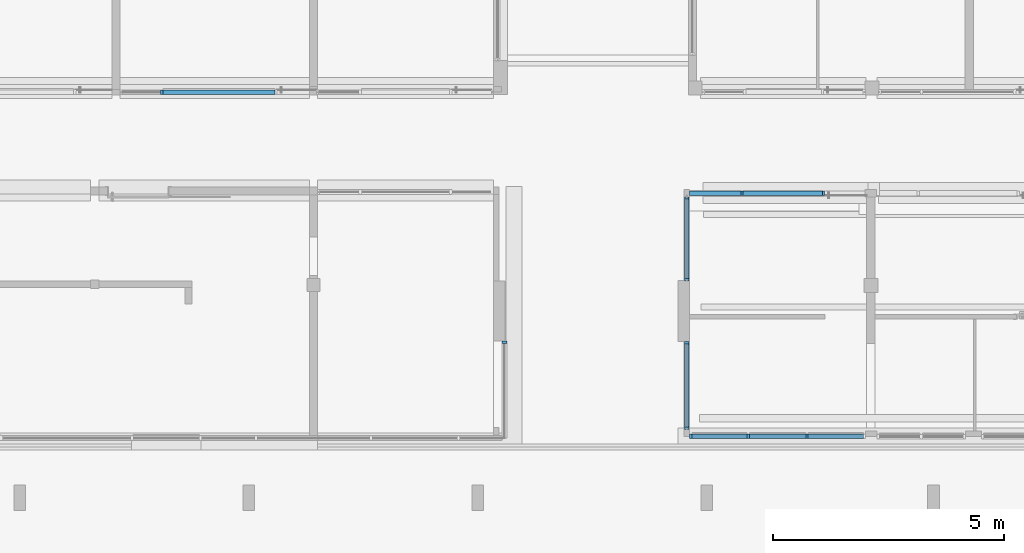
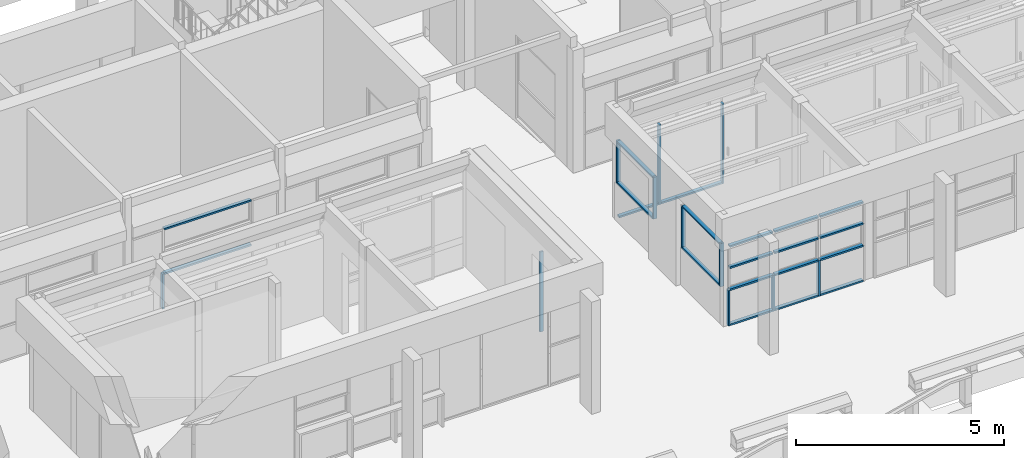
# One storey, part 8 of 117: 31 members, 6 elements without a shape of their own.
"""IFC4 building model written with IfcOpenShell, lengths in metres."""

from ifc_helpers import new_model, entity, si_unit, converted_unit, derived_unit, direction, frame, origin, place, context, subcontext, project, spatial, indexed_curve, outline, extrude, source, transform, mapped, material, type_object, type_shapes, element, aggregate, save


model = new_model("IFC4")

# Units and contexts
model_context = context("Model", 3, precision=1e-05, world=origin(), true_north=direction((6.123031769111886e-17, 1.0)))
body_context = subcontext(model_context, "Body", "Model", "MODEL_VIEW")
ifc_project = project(units=[si_unit("LENGTHUNIT", "METRE"), si_unit("AREAUNIT", "SQUARE_METRE"), si_unit("VOLUMEUNIT", "CUBIC_METRE"), converted_unit("PLANEANGLEUNIT", "DEGREE", entity("IfcRatioMeasure", 0.017453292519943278), si_unit("PLANEANGLEUNIT", "RADIAN"), dimensions=[0, 0, 0, 0, 0, 0, 0]), si_unit("MASSUNIT", "GRAM", prefix="KILO"), derived_unit("MASSDENSITYUNIT", [(si_unit("MASSUNIT", "GRAM", prefix="KILO"), 1), (si_unit("LENGTHUNIT", "METRE"), -3)]), derived_unit("MOMENTOFINERTIAUNIT", [(si_unit("LENGTHUNIT", "METRE"), 4)]), si_unit("TIMEUNIT", "SECOND"), si_unit("FREQUENCYUNIT", "HERTZ"), si_unit("THERMODYNAMICTEMPERATUREUNIT", "DEGREE_CELSIUS"), derived_unit("THERMALTRANSMITTANCEUNIT", [(si_unit("MASSUNIT", "GRAM", prefix="KILO"), 1), (si_unit("THERMODYNAMICTEMPERATUREUNIT", "KELVIN"), -1), (si_unit("TIMEUNIT", "SECOND"), -3)]), derived_unit("VOLUMETRICFLOWRATEUNIT", [(si_unit("LENGTHUNIT", "METRE"), 3), (si_unit("TIMEUNIT", "SECOND"), -1)]), derived_unit("MASSFLOWRATEUNIT", [(si_unit("MASSUNIT", "GRAM", prefix="KILO"), 1), (si_unit("TIMEUNIT", "SECOND"), -1)]), derived_unit("ROTATIONALFREQUENCYUNIT", [(si_unit("TIMEUNIT", "SECOND"), -1)]), si_unit("ELECTRICCURRENTUNIT", "AMPERE"), si_unit("ELECTRICVOLTAGEUNIT", "VOLT"), si_unit("POWERUNIT", "WATT"), si_unit("FORCEUNIT", "NEWTON", prefix="KILO"), si_unit("ILLUMINANCEUNIT", "LUX"), si_unit("LUMINOUSFLUXUNIT", "LUMEN"), si_unit("LUMINOUSINTENSITYUNIT", "CANDELA"), derived_unit("USERDEFINED", [(si_unit("MASSUNIT", "GRAM", prefix="KILO"), -1), (si_unit("LENGTHUNIT", "METRE"), -2), (si_unit("TIMEUNIT", "SECOND"), 3), (si_unit("LUMINOUSFLUXUNIT", "LUMEN"), 1)]), derived_unit("SOUNDPOWERUNIT", [(si_unit("MASSUNIT", "GRAM", prefix="KILO"), 1), (si_unit("LENGTHUNIT", "METRE"), 2), (si_unit("TIMEUNIT", "SECOND"), -3)]), derived_unit("SOUNDPRESSUREUNIT", [(si_unit("MASSUNIT", "GRAM", prefix="KILO"), 1), (si_unit("LENGTHUNIT", "METRE"), -1), (si_unit("TIMEUNIT", "SECOND"), -2)]), derived_unit("LINEARVELOCITYUNIT", [(si_unit("LENGTHUNIT", "METRE"), 1), (si_unit("TIMEUNIT", "SECOND"), -1)]), si_unit("PRESSUREUNIT", "PASCAL"), derived_unit("USERDEFINED", [(si_unit("LENGTHUNIT", "METRE"), -2), (si_unit("MASSUNIT", "GRAM", prefix="KILO"), 1), (si_unit("TIMEUNIT", "SECOND"), -2)]), derived_unit("LINEARFORCEUNIT", [(si_unit("MASSUNIT", "GRAM", prefix="KILO"), 1), (si_unit("LENGTHUNIT", "METRE"), 1), (si_unit("TIMEUNIT", "SECOND"), -2), (si_unit("LENGTHUNIT", "METRE"), -1)]), derived_unit("PLANARFORCEUNIT", [(si_unit("MASSUNIT", "GRAM", prefix="KILO"), 1), (si_unit("LENGTHUNIT", "METRE"), 1), (si_unit("TIMEUNIT", "SECOND"), -2), (si_unit("LENGTHUNIT", "METRE"), -2)])], contexts=[model_context])

# Site, building, storey
site_placement = place(None, origin())
site = spatial("IfcSite", under=ifc_project, at=site_placement, Name="Superficie", CompositionType="ELEMENT")
building_placement = place(site_placement, origin())
building = spatial("IfcBuilding", under=site, at=building_placement, CompositionType="ELEMENT")
storey_placement = place(building_placement, origin())
storey = spatial("IfcBuildingStorey", under=building, at=storey_placement, Name="Nivel 0", CompositionType="ELEMENT", Elevation=0.0)

# Curtain wall, members
curtain_wall_type = type_object("IfcCurtainWallType", Name="Muro cortina:Muro cortina - simple", PredefinedType="NOTDEFINED")
curtain_wall_1_placement = place(storey_placement, origin())
curtain_wall_1 = element("IfcCurtainWall", 1, at=curtain_wall_1_placement, inside=storey, type_object=curtain_wall_type, Name="Muro cortina:Muro cortina - simple", ObjectType="Muro cortina:Muro cortina - simple", PredefinedType="NOTDEFINED")
ifc_material = material(Name="<Unnamed>")
member_type_1 = type_object("IfcMemberType", Name="Montante rectangular:Montante rectangular - 5 x 10 cm", PredefinedType="MULLION", material=ifc_material)
shared_shape_1 = source(origin(), body_context, "Body", "SweptSolid", [
    extrude(outline(indexed_curve([(-0.05, -0.025), (0.05, -0.025), (0.05, 0.025), (-0.05, 0.025), (-0.05, -0.025)], self_intersect=False)), frame((0.0, 0.0, -1.2499999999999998), z_axis=(0.0, 0.0, 1.0), x_axis=(0.0, -1.0, 0.0)), (0.0, 0.0, 1.0), 1.2499999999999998),
])
type_shapes(member_type_1, [shared_shape_1])
member_1_placement = place(curtain_wall_1_placement, frame((0.7267990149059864, 0.29436135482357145, 1.0750000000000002), z_axis=(0.0, 0.0, -1.0), x_axis=(0.0, -1.0, 0.0)))
member_1 = element("IfcMember", 2, at=member_1_placement, type_object=member_type_1, material=ifc_material, Name="Montante rectangular:Montante rectangular - 5 x 10 cm", ObjectType="Montante rectangular:Montante rectangular - 5 x 10 cm", PredefinedType="MULLION", context=body_context, shape_type="MappedRepresentation", body=[
    mapped(shared_shape_1, transform((0.0, 0.0, 0.0), scale=1.0)),
])
member_type_2 = type_object("IfcMemberType", Name="Montante rectangular:Montante rectangular - 5 x 10 cm", PredefinedType="MULLION", material=ifc_material)
shared_shape_2 = source(origin(), body_context, "Body", "SweptSolid", [
    extrude(outline(indexed_curve([(-0.05, -0.025), (0.05, -0.025), (0.05, 0.025), (-0.05, 0.025), (-0.05, -0.025)], self_intersect=False)), frame((0.0, 0.0, -1.7985320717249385), z_axis=(0.0, 0.0, 1.0), x_axis=(0.0, -1.0, 0.0)), (0.0, 0.0, 1.0), 1.7985320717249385),
])
type_shapes(member_type_2, [shared_shape_2])
member_2_placement = place(curtain_wall_1_placement, frame((0.7267990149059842, -1.5291707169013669, 1.1), z_axis=(0.0, -1.0, 0.0), x_axis=(0.0, 0.0, 1.0)))
member_2 = element("IfcMember", 3, at=member_2_placement, type_object=member_type_2, material=ifc_material, Name="Montante rectangular:Montante rectangular - 5 x 10 cm", ObjectType="Montante rectangular:Montante rectangular - 5 x 10 cm", PredefinedType="MULLION", context=body_context, shape_type="MappedRepresentation", body=[
    mapped(shared_shape_2, transform((0.0, 0.0, 0.0), scale=1.0)),
])
member_3_placement = place(curtain_wall_1_placement, frame((0.7267990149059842, -1.5291707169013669, 2.3249999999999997), z_axis=(0.0, -1.0, 0.0), x_axis=(0.0, 0.0, 1.0)))
member_3 = element("IfcMember", 4, at=member_3_placement, type_object=member_type_2, material=ifc_material, Name="Montante rectangular:Montante rectangular - 5 x 10 cm", ObjectType="Montante rectangular:Montante rectangular - 5 x 10 cm", PredefinedType="MULLION", context=body_context, shape_type="MappedRepresentation", body=[
    mapped(shared_shape_2, transform((0.0, 0.0, 0.0), scale=1.0)),
])
member_type_3 = type_object("IfcMemberType", Name="Montante rectangular:Montante rectangular - 5 x 10 cm", PredefinedType="MULLION", material=ifc_material)
shared_shape_3 = source(origin(), body_context, "Body", "SweptSolid", [
    extrude(outline(indexed_curve([(-0.05, -0.025), (0.05, -0.025), (0.05, 0.025), (-0.05, 0.025), (-0.05, -0.025)], self_intersect=False)), frame((0.0, 0.0, -1.275), z_axis=(0.0, 0.0, 1.0), x_axis=(0.0, -1.0, 0.0)), (0.0, 0.0, 1.0), 1.275),
])
type_shapes(member_type_3, [shared_shape_3])
member_4_placement = place(curtain_wall_1_placement, frame((0.7267990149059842, -1.554170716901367, 1.0750000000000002), z_axis=(0.0, 0.0, -1.0), x_axis=(0.0, -1.0, 0.0)))
member_4 = element("IfcMember", 5, at=member_4_placement, type_object=member_type_3, material=ifc_material, Name="Montante rectangular:Montante rectangular - 5 x 10 cm", ObjectType="Montante rectangular:Montante rectangular - 5 x 10 cm", PredefinedType="MULLION", context=body_context, shape_type="MappedRepresentation", body=[
    mapped(shared_shape_3, transform((0.0, 0.0, 0.0), scale=1.0)),
])
aggregate(curtain_wall_1, [member_2, member_3, member_1, member_4])

curtain_wall_2_placement = place(storey_placement, origin())
curtain_wall_2 = element("IfcCurtainWall", 6, at=curtain_wall_2_placement, inside=storey, type_object=curtain_wall_type, Name="Muro cortina:Muro cortina - simple", ObjectType="Muro cortina:Muro cortina - simple", PredefinedType="NOTDEFINED")
member_type_4 = type_object("IfcMemberType", Name="Montante rectangular:Montante rectangular - 5 x 10 cm", PredefinedType="MULLION", material=ifc_material)
shared_shape_4 = source(origin(), body_context, "Body", "SweptSolid", [
    extrude(outline(indexed_curve([(-0.05, -0.025), (0.05, -0.025), (0.05, 0.025), (-0.05, 0.025), (-0.05, -0.025)], self_intersect=False)), frame((0.0, 0.0, -1.2299999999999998), z_axis=(0.0, 0.0, 1.0), x_axis=(0.0, -1.0, 0.0)), (0.0, 0.0, 1.0), 1.2299999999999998),
])
type_shapes(member_type_4, [shared_shape_4])
member_5_placement = place(curtain_wall_2_placement, frame((0.7267990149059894, 1.659361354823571, 1.12), z_axis=(0.0, 0.0, -1.0), x_axis=(0.0, -1.0, 0.0)))
member_5 = element("IfcMember", 7, at=member_5_placement, type_object=member_type_4, material=ifc_material, Name="Montante rectangular:Montante rectangular - 5 x 10 cm", ObjectType="Montante rectangular:Montante rectangular - 5 x 10 cm", PredefinedType="MULLION", context=body_context, shape_type="MappedRepresentation", body=[
    mapped(shared_shape_4, transform((0.0, 0.0, 0.0), scale=1.0)),
])
member_type_5 = type_object("IfcMemberType", Name="Montante rectangular:Montante rectangular - 5 x 10 cm", PredefinedType="MULLION", material=ifc_material)
shared_shape_5 = source(origin(), body_context, "Body", "SweptSolid", [
    extrude(outline(indexed_curve([(-0.05, -0.025), (0.05, -0.025), (0.05, 0.025), (-0.05, 0.025), (-0.05, -0.025)], self_intersect=False)), frame((0.0, 0.0, -1.7163524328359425), z_axis=(0.0, 0.0, 1.0), x_axis=(0.0, -1.0, 0.0)), (0.0, 0.0, 1.0), 1.7163524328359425),
])
type_shapes(member_type_5, [shared_shape_5])
member_6_placement = place(curtain_wall_2_placement, frame((0.7267990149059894, 1.6843613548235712, 1.12), z_axis=(0.0, -1.0, 0.0), x_axis=(0.0, 0.0, 1.0)))
member_6 = element("IfcMember", 8, at=member_6_placement, type_object=member_type_5, material=ifc_material, Name="Montante rectangular:Montante rectangular - 5 x 10 cm", ObjectType="Montante rectangular:Montante rectangular - 5 x 10 cm", PredefinedType="MULLION", context=body_context, shape_type="MappedRepresentation", body=[
    mapped(shared_shape_5, transform((0.0, 0.0, 0.0), scale=1.0)),
])
member_7_placement = place(curtain_wall_2_placement, frame((0.7267990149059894, 1.6843613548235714, 2.3249999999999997), z_axis=(0.0, -1.0, 0.0), x_axis=(0.0, 0.0, 1.0)))
member_7 = element("IfcMember", 9, at=member_7_placement, type_object=member_type_5, material=ifc_material, Name="Montante rectangular:Montante rectangular - 5 x 10 cm", ObjectType="Montante rectangular:Montante rectangular - 5 x 10 cm", PredefinedType="MULLION", context=body_context, shape_type="MappedRepresentation", body=[
    mapped(shared_shape_5, transform((0.0, 0.0, 0.0), scale=1.0)),
])
member_type_6 = type_object("IfcMemberType", Name="Montante rectangular:Montante rectangular - 5 x 10 cm", PredefinedType="MULLION", material=ifc_material)
shared_shape_6 = source(origin(), body_context, "Body", "SweptSolid", [
    extrude(outline(indexed_curve([(-0.05, -0.025), (0.05, -0.025), (0.05, 0.025), (-0.05, 0.025), (-0.05, -0.025)], self_intersect=False)), frame((0.0, 0.0, -1.2549999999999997), z_axis=(0.0, 0.0, 1.0), x_axis=(0.0, -1.0, 0.0)), (0.0, 0.0, 1.0), 1.2549999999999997),
])
type_shapes(member_type_6, [shared_shape_6])
member_8_placement = place(curtain_wall_2_placement, frame((0.7267990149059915, 3.425713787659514, 1.0950000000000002), z_axis=(0.0, 0.0, -1.0), x_axis=(0.0, -1.0, 0.0)))
member_8 = element("IfcMember", 10, at=member_8_placement, type_object=member_type_6, material=ifc_material, Name="Montante rectangular:Montante rectangular - 5 x 10 cm", ObjectType="Montante rectangular:Montante rectangular - 5 x 10 cm", PredefinedType="MULLION", context=body_context, shape_type="MappedRepresentation", body=[
    mapped(shared_shape_6, transform((0.0, 0.0, 0.0), scale=1.0)),
])
aggregate(curtain_wall_2, [member_5, member_6, member_8, member_7])

curtain_wall_3_placement = place(storey_placement, origin())
curtain_wall_3 = element("IfcCurtainWall", 11, at=curtain_wall_3_placement, inside=storey, type_object=curtain_wall_type, Name="Muro cortina:Muro cortina - simple", ObjectType="Muro cortina:Muro cortina - simple", PredefinedType="NOTDEFINED")
member_type_7 = type_object("IfcMemberType", Name="Montante rectangular:Montante rectangular - 5 x 10 cm", PredefinedType="MULLION", material=ifc_material)
shared_shape_7 = source(origin(), body_context, "Body", "SweptSolid", [
    extrude(outline(indexed_curve([(-0.05, -0.025), (0.05, -0.025), (0.05, 0.025), (-0.05, 0.025), (-0.05, -0.025)], self_intersect=False)), frame((0.0, 0.0, -2.3499999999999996), z_axis=(0.0, 0.0, 1.0), x_axis=(0.0, -1.0, 0.0)), (0.0, 0.0, 1.0), 2.3499999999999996),
])
type_shapes(member_type_7, [shared_shape_7])
member_9_placement = place(curtain_wall_3_placement, frame((3.681799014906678, 3.5257137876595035, 0.0), z_axis=(0.0, 0.0, -1.0), x_axis=(-1.0, 0.0, 0.0)))
member_9 = element("IfcMember", 12, at=member_9_placement, type_object=member_type_7, material=ifc_material, Name="Montante rectangular:Montante rectangular - 5 x 10 cm", ObjectType="Montante rectangular:Montante rectangular - 5 x 10 cm", PredefinedType="MULLION", context=body_context, shape_type="MappedRepresentation", body=[
    mapped(shared_shape_7, transform((0.0, 0.0, 0.0), scale=1.0)),
])
member_10_placement = place(curtain_wall_3_placement, frame((1.921799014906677, 3.5257137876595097, 0.0), z_axis=(0.0, 0.0, -1.0), x_axis=(-1.0, 0.0, 0.0)))
member_10 = element("IfcMember", 13, at=member_10_placement, type_object=member_type_7, material=ifc_material, Name="Montante rectangular:Montante rectangular - 5 x 10 cm", ObjectType="Montante rectangular:Montante rectangular - 5 x 10 cm", PredefinedType="MULLION", context=body_context, shape_type="MappedRepresentation", body=[
    mapped(shared_shape_7, transform((0.0, 0.0, 0.0), scale=1.0)),
])
member_type_8 = type_object("IfcMemberType", Name="Montante rectangular:Montante rectangular - 5 x 10 cm", PredefinedType="MULLION", material=ifc_material)
shared_shape_8 = source(origin(), body_context, "Body", "SweptSolid", [
    extrude(outline(indexed_curve([(-0.05, -0.025), (0.05, -0.025), (0.05, 0.025), (-0.05, 0.025), (-0.05, -0.025)], self_intersect=False)), frame((-0.025, 0.0, -1.1049999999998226), z_axis=(0.0, 0.0, 1.0), x_axis=(0.0, -1.0, 0.0)), (0.0, 0.0, 1.0), 1.1049999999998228),
])
type_shapes(member_type_8, [shared_shape_8])
member_11_placement = place(curtain_wall_3_placement, frame((1.896799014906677, 3.5257137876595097, 0.0), z_axis=(1.0, 0.0, 0.0), x_axis=(0.0, 0.0, -1.0)))
member_11 = element("IfcMember", 14, at=member_11_placement, type_object=member_type_8, material=ifc_material, Name="Montante rectangular:Montante rectangular - 5 x 10 cm", ObjectType="Montante rectangular:Montante rectangular - 5 x 10 cm", PredefinedType="MULLION", context=body_context, shape_type="MappedRepresentation", body=[
    mapped(shared_shape_8, transform((0.0, 0.0, 0.0), scale=1.0)),
])
member_type_9 = type_object("IfcMemberType", Name="Montante rectangular:Montante rectangular - 5 x 10 cm", PredefinedType="MULLION", material=ifc_material)
shared_shape_9 = source(origin(), body_context, "Body", "SweptSolid", [
    extrude(outline(indexed_curve([(-0.05, -0.025), (0.05, -0.025), (0.05, 0.025), (-0.05, 0.025), (-0.05, -0.025)], self_intersect=False)), frame((-0.025, 0.0, -1.7100000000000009), z_axis=(0.0, 0.0, 1.0), x_axis=(0.0, -1.0, 0.0)), (0.0, 0.0, 1.0), 1.710000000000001),
])
type_shapes(member_type_9, [shared_shape_9])
member_12_placement = place(curtain_wall_3_placement, frame((3.656799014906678, 3.5257137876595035, 0.0), z_axis=(1.0, 0.0, 0.0), x_axis=(0.0, 0.0, -1.0)))
member_12 = element("IfcMember", 15, at=member_12_placement, type_object=member_type_9, material=ifc_material, Name="Montante rectangular:Montante rectangular - 5 x 10 cm", ObjectType="Montante rectangular:Montante rectangular - 5 x 10 cm", PredefinedType="MULLION", context=body_context, shape_type="MappedRepresentation", body=[
    mapped(shared_shape_9, transform((0.0, 0.0, 0.0), scale=1.0)),
])
aggregate(curtain_wall_3, [member_9, member_10, member_11, member_12])

# Curtain wall, member
curtain_wall_4_placement = place(storey_placement, origin())
curtain_wall_4 = element("IfcCurtainWall", 16, at=curtain_wall_4_placement, inside=storey, type_object=curtain_wall_type, Name="Muro cortina:Muro cortina - simple", ObjectType="Muro cortina:Muro cortina - simple", PredefinedType="NOTDEFINED")
member_type_10 = type_object("IfcMemberType", Name="Montante rectangular:Montante rectangular - 5 x 10 cm", PredefinedType="MULLION", material=ifc_material)
shared_shape_10 = source(origin(), body_context, "Body", "SweptSolid", [
    extrude(outline(indexed_curve([(-0.05, -0.025), (0.05, -0.025), (0.05, 0.025), (-0.05, 0.025), (-0.05, -0.025)], self_intersect=False)), frame((-0.025, 0.0, -2.35), z_axis=(0.0, 0.0, 1.0), x_axis=(0.0, -1.0, 0.0)), (0.0, 0.0, 1.0), 2.35),
])
type_shapes(member_type_10, [shared_shape_10])
member_13_placement = place(curtain_wall_4_placement, frame((-3.2132009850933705, 0.3327285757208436, 0.0), z_axis=(0.0, 0.0, -1.0), x_axis=(0.0, 1.0, 0.0)))
member_13 = element("IfcMember", 17, at=member_13_placement, type_object=member_type_10, material=ifc_material, Name="Montante rectangular:Montante rectangular - 5 x 10 cm", ObjectType="Montante rectangular:Montante rectangular - 5 x 10 cm", PredefinedType="MULLION", context=body_context, shape_type="MappedRepresentation", body=[
    mapped(shared_shape_10, transform((0.0, 0.0, 0.0), scale=1.0)),
])
aggregate(curtain_wall_4, [member_13])

# Curtain wall, members
curtain_wall_5_placement = place(storey_placement, origin())
curtain_wall_5 = element("IfcCurtainWall", 18, at=curtain_wall_5_placement, inside=storey, type_object=curtain_wall_type, Name="Muro cortina:Muro cortina - simple", ObjectType="Muro cortina:Muro cortina - simple", PredefinedType="NOTDEFINED")
member_type_11 = type_object("IfcMemberType", Name="Montante rectangular:Montante rectangular - 5 x 10 cm", PredefinedType="MULLION", material=ifc_material)
shared_shape_11 = source(origin(), body_context, "Body", "SweptSolid", [
    extrude(outline(indexed_curve([(-0.05, -0.025), (0.05, -0.025), (0.05, 0.025), (-0.05, 0.025), (-0.05, -0.025)], self_intersect=False)), frame((0.0, 0.0, -1.0250000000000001), z_axis=(0.0, 0.0, 1.0), x_axis=(0.0, -1.0, 0.0)), (0.0, 0.0, 1.0), 1.0250000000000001),
])
type_shapes(member_type_11, [shared_shape_11])
member_14_placement = place(curtain_wall_5_placement, frame((-10.623200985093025, 5.715829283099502, -0.005000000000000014), z_axis=(0.0, 0.0, -1.0), x_axis=(1.0, 0.0, 0.0)))
member_14 = element("IfcMember", 19, at=member_14_placement, type_object=member_type_11, material=ifc_material, Name="Montante rectangular:Montante rectangular - 5 x 10 cm", ObjectType="Montante rectangular:Montante rectangular - 5 x 10 cm", PredefinedType="MULLION", context=body_context, shape_type="MappedRepresentation", body=[
    mapped(shared_shape_11, transform((0.0, 0.0, 0.0), scale=1.0)),
])
member_type_12 = type_object("IfcMemberType", Name="Montante rectangular:Montante rectangular - 5 x 10 cm", PredefinedType="MULLION", material=ifc_material)
shared_shape_12 = source(origin(), body_context, "Body", "SweptSolid", [
    extrude(outline(indexed_curve([(-0.05, -0.025), (0.05, -0.025), (0.05, 0.025), (-0.05, 0.025), (-0.05, -0.025)], self_intersect=False)), frame((-0.025, 0.0, -2.4195344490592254), z_axis=(0.0, 0.0, 1.0), x_axis=(0.0, -1.0, 0.0)), (0.0, 0.0, 1.0), 2.419534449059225),
])
type_shapes(member_type_12, [shared_shape_12])
member_15_placement = place(curtain_wall_5_placement, frame((-8.1786665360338, 5.715829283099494, 2.35), z_axis=(1.0, 0.0, 0.0), x_axis=(0.0, 0.0, 1.0)))
member_15 = element("IfcMember", 20, at=member_15_placement, type_object=member_type_12, material=ifc_material, Name="Montante rectangular:Montante rectangular - 5 x 10 cm", ObjectType="Montante rectangular:Montante rectangular - 5 x 10 cm", PredefinedType="MULLION", context=body_context, shape_type="MappedRepresentation", body=[
    mapped(shared_shape_12, transform((0.0, 0.0, 0.0), scale=1.0)),
])
member_type_13 = type_object("IfcMemberType", Name="Montante rectangular:Montante rectangular - 5 x 10 cm", PredefinedType="MULLION", material=ifc_material)
shared_shape_13 = source(origin(), body_context, "Body", "SweptSolid", [
    extrude(outline(indexed_curve([(-0.05, -0.025), (0.05, -0.025), (0.05, 0.025), (-0.05, 0.025), (-0.05, -0.025)], self_intersect=False)), frame((0.0, 0.0, -2.4195344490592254), z_axis=(0.0, 0.0, 1.0), x_axis=(0.0, -1.0, 0.0)), (0.0, 0.0, 1.0), 2.419534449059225),
])
type_shapes(member_type_13, [shared_shape_13])
member_16_placement = place(curtain_wall_5_placement, frame((-8.1786665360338, 5.715829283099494, 1.0199999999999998), z_axis=(1.0, 0.0, 0.0), x_axis=(0.0, 0.0, 1.0)))
member_16 = element("IfcMember", 21, at=member_16_placement, type_object=member_type_13, material=ifc_material, Name="Montante rectangular:Montante rectangular - 5 x 10 cm", ObjectType="Montante rectangular:Montante rectangular - 5 x 10 cm", PredefinedType="MULLION", context=body_context, shape_type="MappedRepresentation", body=[
    mapped(shared_shape_13, transform((0.0, 0.0, 0.0), scale=1.0)),
])
aggregate(curtain_wall_5, [member_15, member_16, member_14])

curtain_wall_6_placement = place(storey_placement, origin())
curtain_wall_6 = element("IfcCurtainWall", 22, at=curtain_wall_6_placement, inside=storey, type_object=curtain_wall_type, Name="Muro cortina:Muro cortina - simple", ObjectType="Muro cortina:Muro cortina - simple", PredefinedType="NOTDEFINED")
member_type_14 = type_object("IfcMemberType", Name="Montante rectangular:Montante rectangular - 5 x 10 cm", PredefinedType="MULLION", material=ifc_material)
shared_shape_14 = source(origin(), body_context, "Body", "SweptSolid", [
    extrude(outline(indexed_curve([(-0.05, -0.025), (0.05, -0.025), (0.05, 0.025), (-0.05, 0.025), (-0.05, -0.025)], self_intersect=False)), frame((-0.025, 0.0, -1.0499999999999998), z_axis=(0.0, 0.0, 1.0), x_axis=(0.0, -1.0, 0.0)), (0.0, 0.0, 1.0), 1.0499999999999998),
])
type_shapes(member_type_14, [shared_shape_14])
member_17_placement = place(curtain_wall_6_placement, frame((0.7917990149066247, -1.724170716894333, 0.0), z_axis=(0.0, 0.0, -1.0), x_axis=(-1.0, 0.0, 0.0)))
member_17 = element("IfcMember", 23, at=member_17_placement, type_object=member_type_14, material=ifc_material, Name="Montante rectangular:Montante rectangular - 5 x 10 cm", ObjectType="Montante rectangular:Montante rectangular - 5 x 10 cm", PredefinedType="MULLION", context=body_context, shape_type="MappedRepresentation", body=[
    mapped(shared_shape_14, transform((0.0, 0.0, 0.0), scale=1.0)),
])
member_type_15 = type_object("IfcMemberType", Name="Montante rectangular:Montante rectangular - 5 x 10 cm", PredefinedType="MULLION", material=ifc_material)
shared_shape_15 = source(origin(), body_context, "Body", "SweptSolid", [
    extrude(outline(indexed_curve([(-0.05, -0.025), (0.05, -0.025), (0.05, 0.025), (-0.05, 0.025), (-0.05, -0.025)], self_intersect=False)), frame((-0.025, 0.0, -1.1933333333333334), z_axis=(0.0, 0.0, 1.0), x_axis=(0.0, -1.0, 0.0)), (0.0, 0.0, 1.0), 1.1933333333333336),
])
type_shapes(member_type_15, [shared_shape_15])
member_18_placement = place(curtain_wall_6_placement, frame((4.5467990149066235, -1.724170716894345, 0.0), z_axis=(1.0, 0.0, 0.0), x_axis=(0.0, 0.0, -1.0)))
member_18 = element("IfcMember", 24, at=member_18_placement, type_object=member_type_15, material=ifc_material, Name="Montante rectangular:Montante rectangular - 5 x 10 cm", ObjectType="Montante rectangular:Montante rectangular - 5 x 10 cm", PredefinedType="MULLION", context=body_context, shape_type="MappedRepresentation", body=[
    mapped(shared_shape_15, transform((0.0, 0.0, 0.0), scale=1.0)),
])
member_19_placement = place(curtain_wall_6_placement, frame((2.035132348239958, -1.724170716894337, 0.0), z_axis=(1.0, 0.0, 0.0), x_axis=(0.0, 0.0, -1.0)))
member_19 = element("IfcMember", 25, at=member_19_placement, type_object=member_type_15, material=ifc_material, Name="Montante rectangular:Montante rectangular - 5 x 10 cm", ObjectType="Montante rectangular:Montante rectangular - 5 x 10 cm", PredefinedType="MULLION", context=body_context, shape_type="MappedRepresentation", body=[
    mapped(shared_shape_15, transform((0.0, 0.0, 0.0), scale=1.0)),
])
member_type_16 = type_object("IfcMemberType", Name="Montante rectangular:Montante rectangular - 5 x 10 cm", PredefinedType="MULLION", material=ifc_material)
shared_shape_16 = source(origin(), body_context, "Body", "SweptSolid", [
    extrude(outline(indexed_curve([(-0.05, -0.025), (0.05, -0.025), (0.05, 0.025), (-0.05, 0.025), (-0.05, -0.025)], self_intersect=False)), frame((-0.025, 0.0, -1.193333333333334), z_axis=(0.0, 0.0, 1.0), x_axis=(0.0, -1.0, 0.0)), (0.0, 0.0, 1.0), 1.193333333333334),
])
type_shapes(member_type_16, [shared_shape_16])
member_20_placement = place(curtain_wall_6_placement, frame((0.8417990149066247, -1.7241707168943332, 2.35), z_axis=(-1.0, 0.0, 0.0), x_axis=(0.0, 0.0, 1.0)))
member_20 = element("IfcMember", 26, at=member_20_placement, type_object=member_type_16, material=ifc_material, Name="Montante rectangular:Montante rectangular - 5 x 10 cm", ObjectType="Montante rectangular:Montante rectangular - 5 x 10 cm", PredefinedType="MULLION", context=body_context, shape_type="MappedRepresentation", body=[
    mapped(shared_shape_16, transform((0.0, 0.0, 0.0), scale=1.0)),
])
member_21_placement = place(curtain_wall_6_placement, frame((3.353465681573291, -1.724170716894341, 2.35), z_axis=(-1.0, 0.0, 0.0), x_axis=(0.0, 0.0, 1.0)))
member_21 = element("IfcMember", 27, at=member_21_placement, type_object=member_type_16, material=ifc_material, Name="Montante rectangular:Montante rectangular - 5 x 10 cm", ObjectType="Montante rectangular:Montante rectangular - 5 x 10 cm", PredefinedType="MULLION", context=body_context, shape_type="MappedRepresentation", body=[
    mapped(shared_shape_16, transform((0.0, 0.0, 0.0), scale=1.0)),
])
member_type_17 = type_object("IfcMemberType", Name="Montante rectangular:Montante rectangular - 5 x 10 cm", PredefinedType="MULLION", material=ifc_material)
shared_shape_17 = source(origin(), body_context, "Body", "SweptSolid", [
    extrude(outline(indexed_curve([(-0.05, -0.025), (0.05, -0.025), (0.05, 0.025), (-0.05, 0.025), (-0.05, -0.025)], self_intersect=False)), frame((-0.025, 0.0, -1.2183333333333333), z_axis=(0.0, 0.0, 1.0), x_axis=(0.0, -1.0, 0.0)), (0.0, 0.0, 1.0), 1.218333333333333),
])
type_shapes(member_type_17, [shared_shape_17])
member_22_placement = place(curtain_wall_6_placement, frame((3.3034656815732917, -1.724170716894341, 0.0), z_axis=(1.0, 0.0, 0.0), x_axis=(0.0, 0.0, -1.0)))
member_22 = element("IfcMember", 28, at=member_22_placement, type_object=member_type_17, material=ifc_material, Name="Montante rectangular:Montante rectangular - 5 x 10 cm", ObjectType="Montante rectangular:Montante rectangular - 5 x 10 cm", PredefinedType="MULLION", context=body_context, shape_type="MappedRepresentation", body=[
    mapped(shared_shape_17, transform((0.0, 0.0, 0.0), scale=1.0)),
])
member_type_18 = type_object("IfcMemberType", Name="Montante rectangular:Montante rectangular - 5 x 10 cm", PredefinedType="MULLION", material=ifc_material)
shared_shape_18 = source(origin(), body_context, "Body", "SweptSolid", [
    extrude(outline(indexed_curve([(-0.05, -0.025), (0.05, -0.025), (0.05, 0.025), (-0.05, 0.025), (-0.05, -0.025)], self_intersect=False)), frame((-0.025, 0.0, -1.2183333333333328), z_axis=(0.0, 0.0, 1.0), x_axis=(0.0, -1.0, 0.0)), (0.0, 0.0, 1.0), 1.2183333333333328),
])
type_shapes(member_type_18, [shared_shape_18])
member_23_placement = place(curtain_wall_6_placement, frame((2.085132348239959, -1.724170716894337, 2.35), z_axis=(-1.0, 0.0, 0.0), x_axis=(0.0, 0.0, 1.0)))
member_23 = element("IfcMember", 29, at=member_23_placement, type_object=member_type_18, material=ifc_material, Name="Montante rectangular:Montante rectangular - 5 x 10 cm", ObjectType="Montante rectangular:Montante rectangular - 5 x 10 cm", PredefinedType="MULLION", context=body_context, shape_type="MappedRepresentation", body=[
    mapped(shared_shape_18, transform((0.0, 0.0, 0.0), scale=1.0)),
])
member_type_19 = type_object("IfcMemberType", Name="Montante rectangular:Montante rectangular - 5 x 10 cm", PredefinedType="MULLION", material=ifc_material)
shared_shape_19 = source(origin(), body_context, "Body", "SweptSolid", [
    extrude(outline(indexed_curve([(-0.05, -0.025), (0.05, -0.025), (0.05, 0.025), (-0.05, 0.025), (-0.05, -0.025)], self_intersect=False)), frame((0.0, 0.0, -1.0499999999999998), z_axis=(0.0, 0.0, 1.0), x_axis=(0.0, -1.0, 0.0)), (0.0, 0.0, 1.0), 1.0499999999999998),
])
type_shapes(member_type_19, [shared_shape_19])
member_24_placement = place(curtain_wall_6_placement, frame((2.0601323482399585, -1.724170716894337, 0.0), z_axis=(0.0, 0.0, -1.0), x_axis=(-1.0, 0.0, 0.0)))
member_24 = element("IfcMember", 30, at=member_24_placement, type_object=member_type_19, material=ifc_material, Name="Montante rectangular:Montante rectangular - 5 x 10 cm", ObjectType="Montante rectangular:Montante rectangular - 5 x 10 cm", PredefinedType="MULLION", context=body_context, shape_type="MappedRepresentation", body=[
    mapped(shared_shape_19, transform((0.0, 0.0, 0.0), scale=1.0)),
])
member_25_placement = place(curtain_wall_6_placement, frame((3.3284656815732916, -1.724170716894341, 0.0), z_axis=(0.0, 0.0, -1.0), x_axis=(-1.0, 0.0, 0.0)))
member_25 = element("IfcMember", 31, at=member_25_placement, type_object=member_type_19, material=ifc_material, Name="Montante rectangular:Montante rectangular - 5 x 10 cm", ObjectType="Montante rectangular:Montante rectangular - 5 x 10 cm", PredefinedType="MULLION", context=body_context, shape_type="MappedRepresentation", body=[
    mapped(shared_shape_19, transform((0.0, 0.0, 0.0), scale=1.0)),
])
member_type_20 = type_object("IfcMemberType", Name="Montante rectangular:Montante rectangular - 5 x 10 cm", PredefinedType="MULLION", material=ifc_material)
shared_shape_20 = source(origin(), body_context, "Body", "SweptSolid", [
    extrude(outline(indexed_curve([(-0.05, -0.025), (0.05, -0.025), (0.05, 0.025), (-0.05, 0.025), (-0.05, -0.025)], self_intersect=False)), frame((0.0, 0.0, -1.193333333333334), z_axis=(0.0, 0.0, 1.0), x_axis=(0.0, -1.0, 0.0)), (0.0, 0.0, 1.0), 1.193333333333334),
])
type_shapes(member_type_20, [shared_shape_20])
member_26_placement = place(curtain_wall_6_placement, frame((0.8417990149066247, -1.7241707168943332, 1.0499999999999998), z_axis=(-1.0, 0.0, 0.0), x_axis=(0.0, 0.0, 1.0)))
member_26 = element("IfcMember", 32, at=member_26_placement, type_object=member_type_20, material=ifc_material, Name="Montante rectangular:Montante rectangular - 5 x 10 cm", ObjectType="Montante rectangular:Montante rectangular - 5 x 10 cm", PredefinedType="MULLION", context=body_context, shape_type="MappedRepresentation", body=[
    mapped(shared_shape_20, transform((0.0, 0.0, 0.0), scale=1.0)),
])
member_27_placement = place(curtain_wall_6_placement, frame((3.353465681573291, -1.724170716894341, 1.0499999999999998), z_axis=(-1.0, 0.0, 0.0), x_axis=(0.0, 0.0, 1.0)))
member_27 = element("IfcMember", 33, at=member_27_placement, type_object=member_type_20, material=ifc_material, Name="Montante rectangular:Montante rectangular - 5 x 10 cm", ObjectType="Montante rectangular:Montante rectangular - 5 x 10 cm", PredefinedType="MULLION", context=body_context, shape_type="MappedRepresentation", body=[
    mapped(shared_shape_20, transform((0.0, 0.0, 0.0), scale=1.0)),
])
member_28_placement = place(curtain_wall_6_placement, frame((0.8417990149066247, -1.7241707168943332, 1.7), z_axis=(-1.0, 0.0, 0.0), x_axis=(0.0, 0.0, 1.0)))
member_28 = element("IfcMember", 34, at=member_28_placement, type_object=member_type_20, material=ifc_material, Name="Montante rectangular:Montante rectangular - 5 x 10 cm", ObjectType="Montante rectangular:Montante rectangular - 5 x 10 cm", PredefinedType="MULLION", context=body_context, shape_type="MappedRepresentation", body=[
    mapped(shared_shape_20, transform((0.0, 0.0, 0.0), scale=1.0)),
])
member_29_placement = place(curtain_wall_6_placement, frame((3.353465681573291, -1.724170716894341, 1.7), z_axis=(-1.0, 0.0, 0.0), x_axis=(0.0, 0.0, 1.0)))
member_29 = element("IfcMember", 35, at=member_29_placement, type_object=member_type_20, material=ifc_material, Name="Montante rectangular:Montante rectangular - 5 x 10 cm", ObjectType="Montante rectangular:Montante rectangular - 5 x 10 cm", PredefinedType="MULLION", context=body_context, shape_type="MappedRepresentation", body=[
    mapped(shared_shape_20, transform((0.0, 0.0, 0.0), scale=1.0)),
])
member_type_21 = type_object("IfcMemberType", Name="Montante rectangular:Montante rectangular - 5 x 10 cm", PredefinedType="MULLION", material=ifc_material)
shared_shape_21 = source(origin(), body_context, "Body", "SweptSolid", [
    extrude(outline(indexed_curve([(-0.05, -0.025), (0.05, -0.025), (0.05, 0.025), (-0.05, 0.025), (-0.05, -0.025)], self_intersect=False)), frame((0.0, 0.0, -1.2183333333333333), z_axis=(0.0, 0.0, 1.0), x_axis=(0.0, -1.0, 0.0)), (0.0, 0.0, 1.0), 1.218333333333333),
])
type_shapes(member_type_21, [shared_shape_21])
member_30_placement = place(curtain_wall_6_placement, frame((2.0851323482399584, -1.724170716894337, 1.0499999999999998), z_axis=(-1.0, 0.0, 0.0), x_axis=(0.0, 0.0, 1.0)))
member_30 = element("IfcMember", 36, at=member_30_placement, type_object=member_type_21, material=ifc_material, Name="Montante rectangular:Montante rectangular - 5 x 10 cm", ObjectType="Montante rectangular:Montante rectangular - 5 x 10 cm", PredefinedType="MULLION", context=body_context, shape_type="MappedRepresentation", body=[
    mapped(shared_shape_21, transform((0.0, 0.0, 0.0), scale=1.0)),
])
member_31_placement = place(curtain_wall_6_placement, frame((2.085132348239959, -1.724170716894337, 1.7), z_axis=(-1.0, 0.0, 0.0), x_axis=(0.0, 0.0, 1.0)))
member_31 = element("IfcMember", 37, at=member_31_placement, type_object=member_type_21, material=ifc_material, Name="Montante rectangular:Montante rectangular - 5 x 10 cm", ObjectType="Montante rectangular:Montante rectangular - 5 x 10 cm", PredefinedType="MULLION", context=body_context, shape_type="MappedRepresentation", body=[
    mapped(shared_shape_21, transform((0.0, 0.0, 0.0), scale=1.0)),
])
aggregate(curtain_wall_6, [member_17, member_18, member_20, member_22, member_21, member_23, member_19, member_24, member_25, member_26, member_30, member_27, member_28, member_31, member_29])

save(model, "model.ifc")
